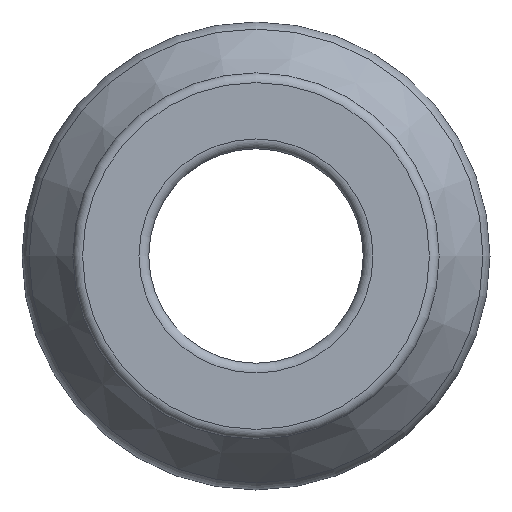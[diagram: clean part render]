
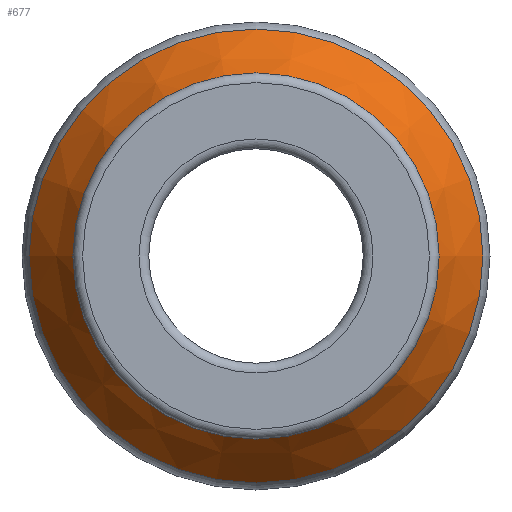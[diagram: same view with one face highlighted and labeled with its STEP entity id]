
A CAD part, front view. The second image highlights one B-rep face of the part: STEP entity #677.
In plain terms, the highlighted conical face has half-angle 34.992 degrees and reference radius 10.25 mm.
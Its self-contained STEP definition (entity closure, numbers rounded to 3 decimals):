
#60=FACE_OUTER_BOUND('',#95,.T.);
#95=EDGE_LOOP('',(#506,#507,#508,#509,#510,#511,#512,#513));
#126=LINE('',#1207,#139);
#139=VECTOR('',#945,10.25);
#175=CIRCLE('',#757,11.638);
#176=CIRCLE('',#758,11.638);
#177=CIRCLE('',#759,11.638);
#179=CIRCLE('',#762,8.862);
#180=CIRCLE('',#763,8.862);
#181=CIRCLE('',#764,8.862);
#270=VERTEX_POINT('',#1194);
#271=VERTEX_POINT('',#1195);
#272=VERTEX_POINT('',#1197);
#273=VERTEX_POINT('',#1202);
#274=VERTEX_POINT('',#1203);
#275=VERTEX_POINT('',#1205);
#361=EDGE_CURVE('',#270,#271,#175,.T.);
#362=EDGE_CURVE('',#272,#270,#176,.T.);
#363=EDGE_CURVE('',#271,#272,#177,.T.);
#365=EDGE_CURVE('',#273,#274,#179,.T.);
#366=EDGE_CURVE('',#275,#273,#180,.T.);
#367=EDGE_CURVE('',#275,#272,#126,.T.);
#368=EDGE_CURVE('',#274,#275,#181,.T.);
#506=ORIENTED_EDGE('',*,*,#365,.F.);
#507=ORIENTED_EDGE('',*,*,#366,.F.);
#508=ORIENTED_EDGE('',*,*,#367,.T.);
#509=ORIENTED_EDGE('',*,*,#362,.T.);
#510=ORIENTED_EDGE('',*,*,#361,.T.);
#511=ORIENTED_EDGE('',*,*,#363,.T.);
#512=ORIENTED_EDGE('',*,*,#367,.F.);
#513=ORIENTED_EDGE('',*,*,#368,.F.);
#664=CONICAL_SURFACE('',#761,10.25,0.611);
#677=ADVANCED_FACE('',(#60),#664,.T.);
#757=AXIS2_PLACEMENT_3D('',#1196,#931,#932);
#758=AXIS2_PLACEMENT_3D('',#1198,#933,#934);
#759=AXIS2_PLACEMENT_3D('',#1199,#935,#936);
#761=AXIS2_PLACEMENT_3D('',#1201,#939,#940);
#762=AXIS2_PLACEMENT_3D('',#1204,#941,#942);
#763=AXIS2_PLACEMENT_3D('',#1206,#943,#944);
#764=AXIS2_PLACEMENT_3D('',#1208,#946,#947);
#931=DIRECTION('center_axis',(0.,-1.,0.));
#932=DIRECTION('ref_axis',(1.,0.,0.));
#933=DIRECTION('center_axis',(0.,-1.,0.));
#934=DIRECTION('ref_axis',(1.,0.,0.));
#935=DIRECTION('center_axis',(0.,-1.,0.));
#936=DIRECTION('ref_axis',(1.,0.,0.));
#939=DIRECTION('center_axis',(0.,1.,0.));
#940=DIRECTION('ref_axis',(1.,0.,0.));
#941=DIRECTION('center_axis',(0.,-1.,0.));
#942=DIRECTION('ref_axis',(1.,0.,0.));
#943=DIRECTION('center_axis',(0.,-1.,0.));
#944=DIRECTION('ref_axis',(1.,0.,0.));
#945=DIRECTION('',(-0.573,0.819,0.));
#946=DIRECTION('center_axis',(0.,-1.,0.));
#947=DIRECTION('ref_axis',(1.,0.,0.));
#1194=CARTESIAN_POINT('',(11.638,23.484,0.));
#1195=CARTESIAN_POINT('',(0.,23.484,11.638));
#1196=CARTESIAN_POINT('Origin',(0.,23.484,0.));
#1197=CARTESIAN_POINT('',(-11.638,23.484,0.));
#1198=CARTESIAN_POINT('Origin',(0.,23.484,0.));
#1199=CARTESIAN_POINT('Origin',(0.,23.484,0.));
#1201=CARTESIAN_POINT('Origin',(0.,21.5,0.));
#1202=CARTESIAN_POINT('',(8.862,19.516,0.));
#1203=CARTESIAN_POINT('',(0.,19.516,8.862));
#1204=CARTESIAN_POINT('Origin',(0.,19.516,0.));
#1205=CARTESIAN_POINT('',(-8.862,19.516,0.));
#1206=CARTESIAN_POINT('Origin',(0.,19.516,0.));
#1207=CARTESIAN_POINT('',(-10.25,21.5,0.));
#1208=CARTESIAN_POINT('Origin',(0.,19.516,0.));
